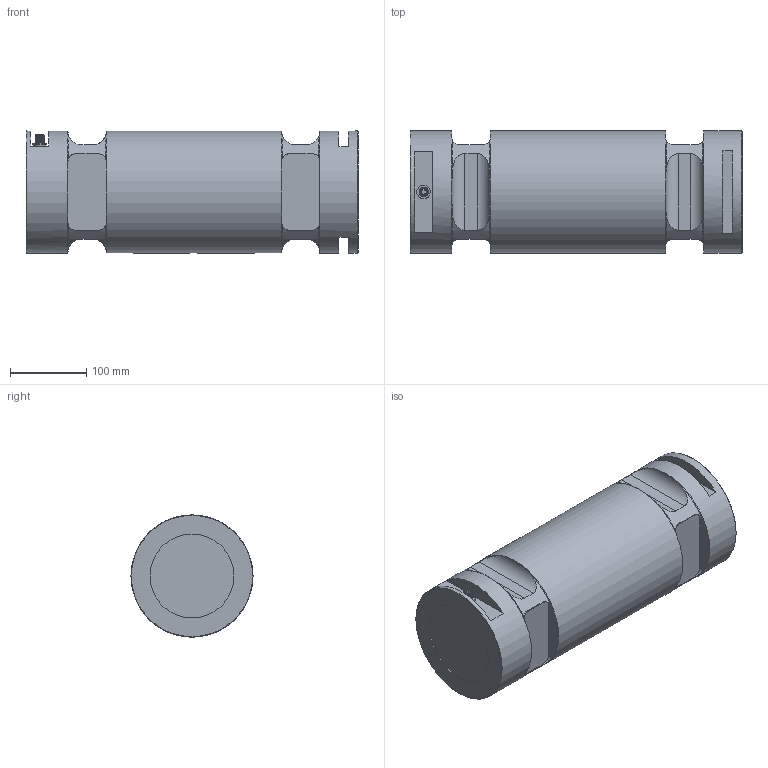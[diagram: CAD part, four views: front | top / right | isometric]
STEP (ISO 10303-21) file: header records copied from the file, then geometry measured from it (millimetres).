
FILE_DESCRIPTION(/* description */ ('Alibre Inc.'),/* implementation_level */ '2;1');
FILE_NAME(/* name */ 'export-EB0B6D64-9C95-46B3-AF6B-E053B44A2EDB',/* time_stamp */ '2019-03-06T10:35:03+01:00',/* author */ (''),/* organization */ (''),/* preprocessor_version */ 'ST-DEVELOPER v17',/* originating_system */ 'Alibre',/* authorisation */ '');
FILE_SCHEMA (('CONFIG_CONTROL_DESIGN'));
Length unit declared in the file: centimetre
Products named in the file (4): ID_1; ID_2; _97940-2110150
Bounding box: 435 x 160 x 160 mm (x, y, z)
Volume: 8221305.1 mm3; surface area: 368380.9 mm2
Topology: 7 solids, 8 shells, 241 faces, 555 edges, 343 vertices
Faces by surface type: plane 99, cylinder 76, bspline 26, cone 22, torus 18
Full cylindrical faces by diameter (mm): 0.5 x8, 6 x1, 8 x3, 9 x1, 10 x3, 11 x1, 11.5 x1, 12 x1, 13 x2, 14 x2, 20 x1, 110 x1, 160 x3
Entity records: 20496 total; most frequent: CARTESIAN_POINT 15775, ORIENTED_EDGE 982, DIRECTION 645, EDGE_CURVE 484, VERTEX_POINT 323, FACE_BOUND 319, EDGE_LOOP 315, AXIS2_PLACEMENT_3D 291
